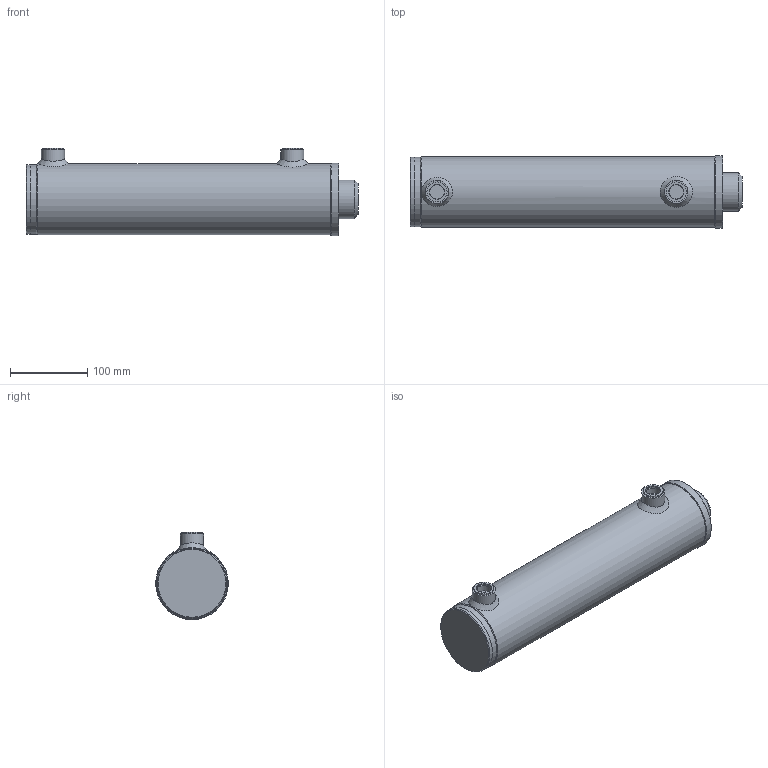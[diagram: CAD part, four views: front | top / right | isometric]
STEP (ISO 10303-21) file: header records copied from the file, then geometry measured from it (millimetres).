
FILE_DESCRIPTION( ( 'Unknown' ), '1' );
FILE_NAME( 'E:/LIBRERIA_3d/CILINDRI/HM0/HM05500250.stp', 'Unknown', ( 'Unknown' ), ( 'Unknown' ), 'PSStep 17.0.49', 'Unknown', ' ' );
FILE_SCHEMA( ( 'AUTOMOTIVE_DESIGN { 1 0 10303 214 1 1 1 1 }' ) );
Length unit declared in the file: millimetre
Products named in the file (18): CG09508050; STL5600250-oa4; Saldatura d'angolo 1-oa2; CBS0800000; FTM5600250-oa3; CT00080027; Assem1; Saldatura con preparazione 1-oa0; Saldatura d'angolo 1-oa1; CF00080090; CDA0002720; APG0800000; SBL5050250
Assembly tree (15 placements, depth 3):
  Saldatura d'angolo 1-oa2
  Saldatura d'angolo 1-oa2
  Assem1
    Saldatura con preparazione 1-oa0
    Saldatura con preparazione 1-oa0
    CF00080090
    CBS0800000
    CDA0002720
    APG0800000  x2
    SBL5050250
    CT00080027
      CT00080027
    CG09508050
      CG09508050
    STL5600250-oa4
      CBS0800000
      FTM5600250-oa3
  Saldatura d'angolo 1-oa1
  Saldatura d'angolo 1-oa1
Bounding box: 430 x 94 x 113 mm (x, y, z)
Volume: 1797697.1 mm3; surface area: 395215.1 mm2
Topology: 16 solids, 16 shells, 196 faces, 394 edges, 245 vertices
Faces by surface type: plane 60, cylinder 56, torus 36, cone 32, bspline 12
Full cylindrical faces by diameter (mm): 4.25 x1, 8 x2, 12 x1, 18.631 x2, 19.5 x2, 20.95 x2, 26 x2, 26.4 x1, 27 x5, 30 x2, 33.2 x1, 41 x1, 50 x5, 53 x3, 58.6 x1, 60 x2, 74.16 x2, 75 x1, 78.34 x2, 79.9 x1, 80 x1, 80.3 x1, 80.5 x1, 80.6 x1, 81 x1, 82 x3, 82.835 x1, 85 x1, 90 x3, 92 x1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
Entity records: 9223 total; most frequent: CARTESIAN_POINT 4377, DIRECTION 730, ORIENTED_EDGE 416, AXIS2_PLACEMENT_3D 352, EDGE_LOOP 347, FACE_OUTER_BOUND 280, EDGE_CURVE 208, VERTEX_POINT 194
